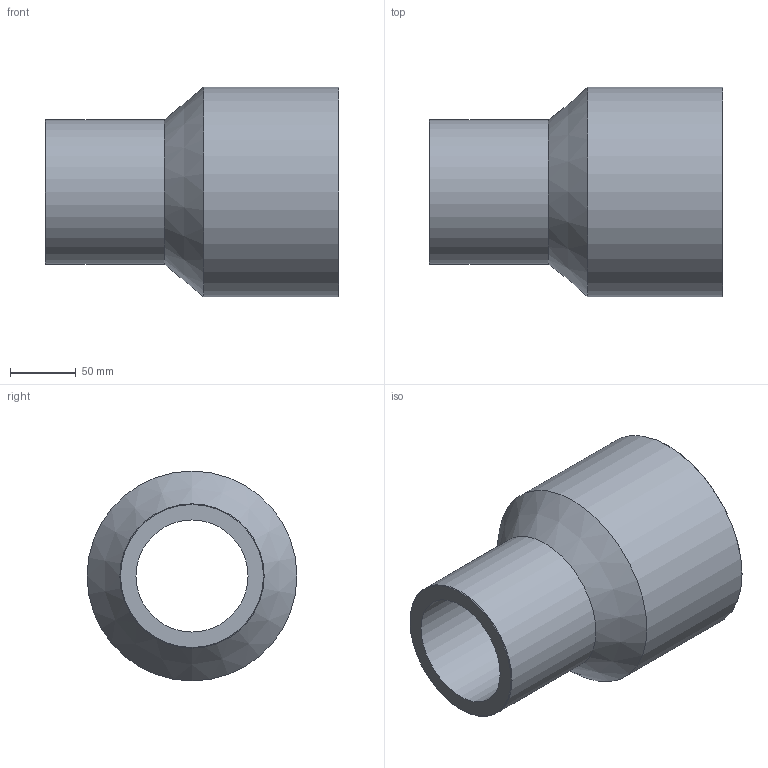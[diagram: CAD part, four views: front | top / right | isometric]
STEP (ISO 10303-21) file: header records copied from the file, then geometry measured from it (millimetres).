
FILE_DESCRIPTION(/* description */ ('Unknown'),/* implementation_level */ '2;1');
FILE_NAME(/* name */ 'RP160110G',/* time_stamp */ '2021-09-16T17:01:11+02:00',/* author */ ('Unknown'),/* organization */ ('Unknown'),/* preprocessor_version */ 'ST-DEVELOPER v16.7',/* originating_system */ 'Solid Edge',/* authorisation */ 'Unknown');
FILE_SCHEMA (('AUTOMOTIVE_DESIGN {1 0 10303 214 3 1 1}'));
Length unit declared in the file: millimetre
Products named in the file (1): RP160110G
Bounding box: 224 x 160 x 160 mm (x, y, z)
Volume: 1389801.4 mm3; surface area: 186802.4 mm2
Topology: 1 solids, 1 shells, 10 faces, 19 edges, 11 vertices
Faces by surface type: cylinder 4, cone 4, plane 2
Full cylindrical faces by diameter (mm): 85.4 x1, 110 x1, 124.2 x1, 160 x1
Entity records: 238 total; most frequent: DIRECTION 42, CARTESIAN_POINT 31, AXIS2_PLACEMENT_3D 21, ORIENTED_EDGE 20, EDGE_LOOP 20, FACE_BOUND 20, EDGE_CURVE 10, VERTEX_POINT 10
